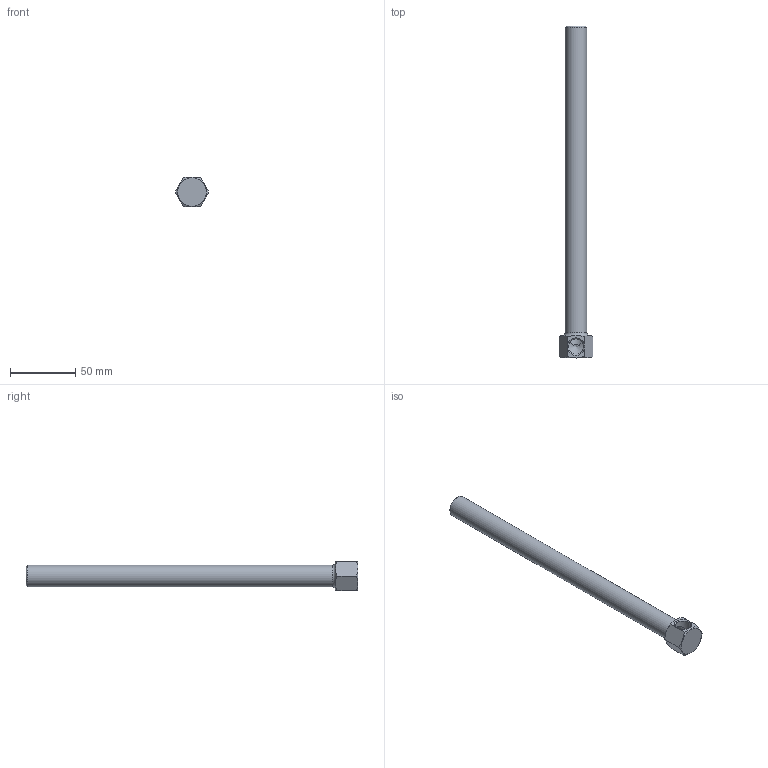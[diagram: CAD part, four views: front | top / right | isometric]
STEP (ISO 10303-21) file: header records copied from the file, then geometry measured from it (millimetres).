
FILE_DESCRIPTION(/* description */ (''),/* implementation_level */ '2;1');
FILE_NAME(/* name */ 'C:/Users/drich/Desktop/1438B-10 v1.step',/* time_stamp */ '2019-12-29T15:28:39-06:00',/* author */ (''),/* organization */ (''),/* preprocessor_version */ 'ST-DEVELOPER v18',/* originating_system */ 'Autodesk Translation Framework v8.12.0.6',/* authorisation */ '');
FILE_SCHEMA (('AUTOMOTIVE_DESIGN { 1 0 10303 214 3 1 1 }','INTEGRATED_CNC_SCHEMA'));
Length unit declared in the file: inch
Products named in the file (1): 1438B-10
Bounding box: 25.66 x 254 x 22.23 mm (x, y, z)
Volume: 29808.5 mm3; surface area: 23678.9 mm2
Topology: 1 solids, 1 shells, 23 faces, 62 edges, 40 vertices
Faces by surface type: plane 10, cone 8, cylinder 4, torus 1
Full cylindrical faces by diameter (mm): 11.668 x1, 11.887 x1, 16.537 x1
Entity records: 821 total; most frequent: CARTESIAN_POINT 247, ORIENTED_EDGE 122, DIRECTION 104, EDGE_CURVE 61, AXIS2_PLACEMENT_3D 43, VERTEX_POINT 40, EDGE_LOOP 25, FACE_OUTER_BOUND 23
